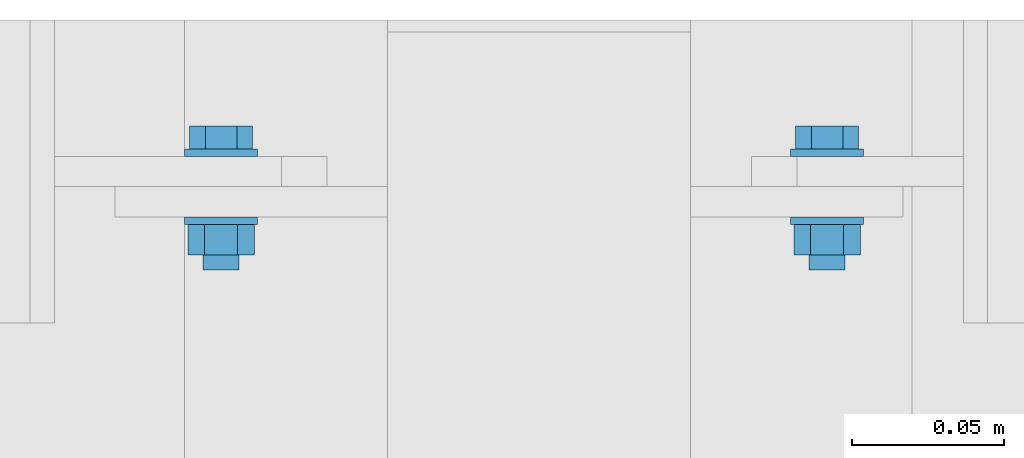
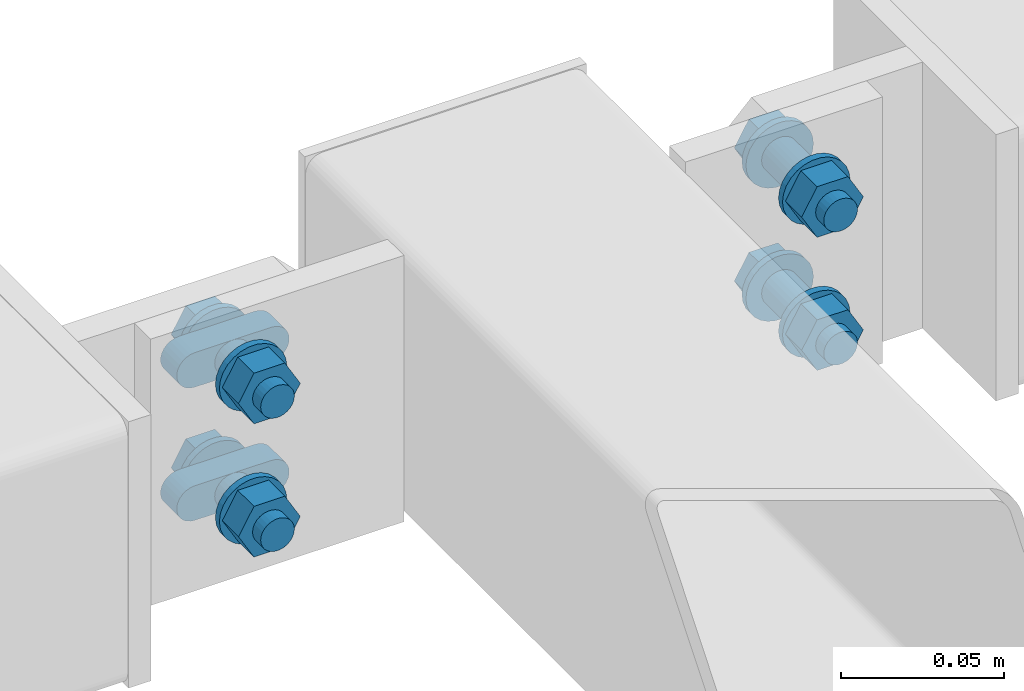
# One storey, part 264 of 271: 2 mechanical fasteners, 2 elements without a shape of their own.
"""IFC2X3 building model written with IfcOpenShell, lengths in millimetres."""

from ifc_helpers import new_model, si_unit, frame, frame_2d, origin_with_axes, origin_2d_with_axis, place, context, subcontext, project, spatial, polyline, circle_curve, parameter, trimmed, segment, composite_curve, circle, outline, extrude, source, transform, mapped, material, type_object, element, aggregate, save


model = new_model("IFC2X3")

# Units and contexts
model_context = context("Model", 3, precision=1e-05, world=origin_with_axes())
body_context = subcontext(model_context, "Body", "Model", "MODEL_VIEW")
ifc_project = project(units=[si_unit("LENGTHUNIT", "METRE", prefix="MILLI"), si_unit("AREAUNIT", "SQUARE_METRE"), si_unit("VOLUMEUNIT", "CUBIC_METRE"), si_unit("MASSUNIT", "GRAM", prefix="KILO"), si_unit("TIMEUNIT", "SECOND"), si_unit("PLANEANGLEUNIT", "RADIAN"), si_unit("SOLIDANGLEUNIT", "STERADIAN"), si_unit("THERMODYNAMICTEMPERATUREUNIT", "DEGREE_CELSIUS"), si_unit("LUMINOUSINTENSITYUNIT", "LUMEN")], contexts=[model_context])

# Site, building, storey
site_placement = place(None, origin_with_axes())
site = spatial("IfcSite", under=ifc_project, at=site_placement, Name="Undefined", CompositionType="ELEMENT")
building_placement = place(site_placement, origin_with_axes())
building = spatial("IfcBuilding", under=site, at=building_placement, Name="Undefined", CompositionType="ELEMENT")
storey_placement = place(building_placement, origin_with_axes())
storey = spatial("IfcBuildingStorey", under=building, at=storey_placement, Name="Undefined", CompositionType="ELEMENT", Elevation=0.0)

# Assembly, mechanical fastener
assembly_1_placement = place(storey_placement, origin_with_axes())
assembly_1 = element("IfcElementAssembly", 1, at=assembly_1_placement, inside=storey, AssemblyPlace="NOTDEFINED", PredefinedType="RIGID_FRAME")
ifc_material = material(Name="Undefined")
mechanical_fastener_type = type_object("IfcMechanicalFastenerType", Name="Bolt assembly")
shared_shape_1 = source(origin_with_axes(), body_context, "Body", "SweptSolid", [
    extrude(circle(Radius=6.5, at=origin_2d_with_axis()), frame((0.0, -5.1, 0.0), z_axis=(0.0, 1.0, 0.0), x_axis=(1.0, 0.0, 0.0)), (0.0, 0.0, 1.0), 10.1),
    extrude(circle(Radius=6.5, at=origin_2d_with_axis()), frame((0.0, -14.9000000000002, 0.0), z_axis=(0.0, 1.0, 0.0), x_axis=(1.0, 0.0, 0.0)), (0.0, 0.0, 1.0), 10.0),
    extrude(outline(polyline([(10.39230484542, 0.0), (5.19615242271, 9.00000000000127), (-5.19615242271, 9.00000000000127), (-10.39230484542, 0.0), (-5.19615242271, -9.00000000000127), (5.19615242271, -9.00000000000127), (10.39230484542, 0.0)])), frame((0.0, -25.0000000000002, 0.0), z_axis=(0.0, 1.0, 0.0), x_axis=(1.0, 0.0, 0.0)), (0.0, 0.0, 1.0), 7.5),
    extrude(circle(Radius=6.0, at=origin_2d_with_axis()), frame((0.0, -17.5000000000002, 0.0), z_axis=(0.0, 1.0, 0.0), x_axis=(1.0, 0.0, 0.0)), (0.0, 0.0, 1.0), 40.0),
    extrude(circle(Radius=12.0, at=origin_2d_with_axis()), frame((0.0, -17.5000000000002, 0.0), z_axis=(0.0, 1.0, 0.0), x_axis=(1.0, 0.0, 0.0)), (0.0, 0.0, 1.0), 2.5),
    extrude(circle(Radius=12.0, at=origin_2d_with_axis()), frame((0.0, 5.00000000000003, 0.0), z_axis=(0.0, 1.0, 0.0), x_axis=(1.0, 0.0, 0.0)), (0.0, 0.0, 1.0), 2.5),
    extrude(outline(polyline([(10.96965511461, 0.0), (5.484827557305, 9.50000000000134), (-5.484827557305, 9.50000000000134), (-10.96965511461, 0.0), (-5.484827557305, -9.50000000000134), (5.484827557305, -9.50000000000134), (10.96965511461, 0.0)])), frame((0.0, 7.50000000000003, 0.0), z_axis=(0.0, 1.0, 0.0), x_axis=(1.0, 0.0, 0.0)), (0.0, 0.0, 1.0), 10.0),
])
mechanical_fastener_1_placement = place(assembly_1_placement, frame((9623.37568709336, 4899.32498425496, 20154.3499999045), z_axis=(0.0, 0.0, -1.0), x_axis=(1.0, 0.0, 0.0)))
mechanical_fastener_1 = element("IfcMechanicalFastener", 2, at=mechanical_fastener_1_placement, type_object=mechanical_fastener_type, material=ifc_material, Name="Bolt assembly", NominalDiameter=12.0, NominalLength=40.0, context=body_context, shape_type="MappedRepresentation", body=[
    mapped(shared_shape_1, transform((0.0, 0.0, -25.0))),
    mapped(shared_shape_1, transform((0.0, 0.0, 25.0))),
])
aggregate(assembly_1, [mechanical_fastener_1])

assembly_2_placement = place(storey_placement, origin_with_axes())
assembly_2 = element("IfcElementAssembly", 3, at=assembly_2_placement, inside=storey, AssemblyPlace="NOTDEFINED", PredefinedType="RIGID_FRAME")
shared_shape_2 = source(origin_with_axes(), body_context, "Body", "SweptSolid", [
    extrude(circle(Radius=6.5, at=origin_2d_with_axis()), frame((0.0, -5.1, 0.0), z_axis=(0.0, 1.0, 0.0), x_axis=(1.0, 0.0, 0.0)), (0.0, 0.0, 1.0), 10.1),
    extrude(outline(composite_curve([segment(polyline([(-13.5, 6.5), (13.5, 6.5)]), True, "CONTINUOUS"), segment(trimmed(circle_curve(frame_2d((13.5, 0.0), x_axis=(0.0, 1.0)), 6.5), [parameter(0.0)], [parameter(3.14159265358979)], False, "PARAMETER"), True, "CONTINUOUS"), segment(polyline([(13.5, -6.5), (-13.5, -6.5)]), True, "CONTINUOUS"), segment(trimmed(circle_curve(frame_2d((-13.5, 0.0), x_axis=(0.0, -1.0)), 6.5), [parameter(0.0)], [parameter(3.14159265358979)], False, "PARAMETER"), True, "DISCONTINUOUS")], self_intersect=False)), frame((0.0, -14.9000000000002, 0.0), z_axis=(0.0, 1.0, 0.0), x_axis=(1.0, 0.0, 0.0)), (0.0, 0.0, 1.0), 10.0),
    extrude(outline(polyline([(10.39230484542, 0.0), (5.19615242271, 9.00000000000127), (-5.19615242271, 9.00000000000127), (-10.39230484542, 0.0), (-5.19615242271, -9.00000000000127), (5.19615242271, -9.00000000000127), (10.39230484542, 0.0)])), frame((0.0, -25.0000000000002, 0.0), z_axis=(0.0, 1.0, 0.0), x_axis=(1.0, 0.0, 0.0)), (0.0, 0.0, 1.0), 7.5),
    extrude(circle(Radius=6.0, at=origin_2d_with_axis()), frame((0.0, -17.5000000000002, 0.0), z_axis=(0.0, 1.0, 0.0), x_axis=(1.0, 0.0, 0.0)), (0.0, 0.0, 1.0), 40.0),
    extrude(circle(Radius=12.0, at=origin_2d_with_axis()), frame((0.0, -17.5000000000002, 0.0), z_axis=(0.0, 1.0, 0.0), x_axis=(1.0, 0.0, 0.0)), (0.0, 0.0, 1.0), 2.5),
    extrude(circle(Radius=12.0, at=origin_2d_with_axis()), frame((0.0, 5.00000000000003, 0.0), z_axis=(0.0, 1.0, 0.0), x_axis=(1.0, 0.0, 0.0)), (0.0, 0.0, 1.0), 2.5),
    extrude(outline(polyline([(10.96965511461, 0.0), (5.484827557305, 9.50000000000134), (-5.484827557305, 9.50000000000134), (-10.96965511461, 0.0), (-5.484827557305, -9.50000000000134), (5.484827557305, -9.50000000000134), (10.96965511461, 0.0)])), frame((0.0, 7.50000000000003, 0.0), z_axis=(0.0, 1.0, 0.0), x_axis=(1.0, 0.0, 0.0)), (0.0, 0.0, 1.0), 10.0),
])
mechanical_fastener_2_placement = place(assembly_2_placement, frame((9423.37568709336, 4899.32498425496, 20154.3499999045), z_axis=(0.0, 0.0, 1.0), x_axis=(-1.0, 0.0, 1.38777878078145e-17)))
mechanical_fastener_2 = element("IfcMechanicalFastener", 4, at=mechanical_fastener_2_placement, type_object=mechanical_fastener_type, material=ifc_material, Name="Bolt assembly", NominalDiameter=12.0, NominalLength=40.0, context=body_context, shape_type="MappedRepresentation", body=[
    mapped(shared_shape_2, transform((0.0, 0.0, -25.0))),
    mapped(shared_shape_2, transform((0.0, 0.0, 25.0))),
])
aggregate(assembly_2, [mechanical_fastener_2])

save(model, "model.ifc")
